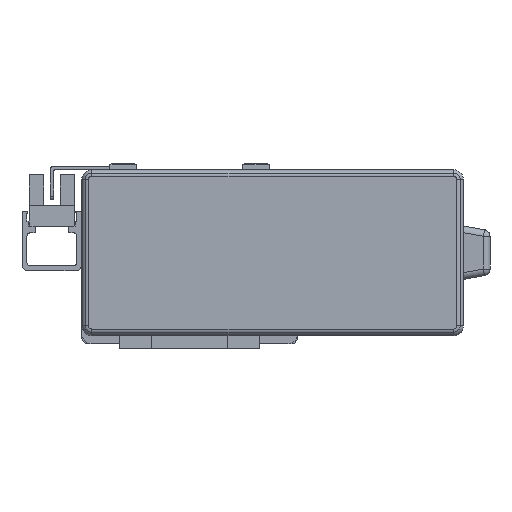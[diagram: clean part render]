
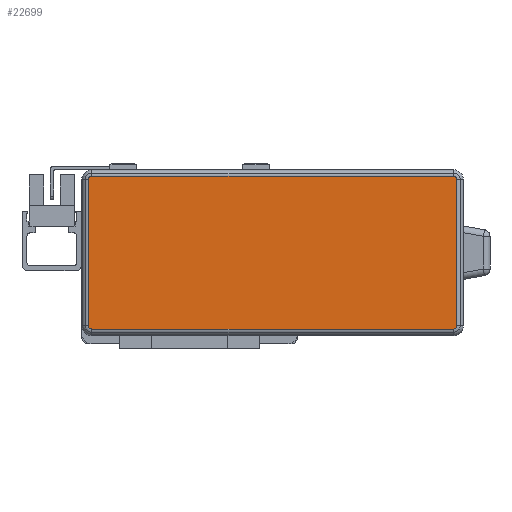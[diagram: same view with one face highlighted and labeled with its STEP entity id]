
A CAD part, left-side view. The second image highlights one B-rep face of the part: STEP entity #22699.
In plain terms, the highlighted planar face has unit normal (-1, 0, 0) as drawn and (0, 0, 1) by its records, which use the part's own axes.
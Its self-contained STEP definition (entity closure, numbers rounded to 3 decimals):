
#216 = CARTESIAN_POINT ( 'NONE',  ( -54.5, -23., 40. ) ) ;
#963 = EDGE_CURVE ( 'NONE', #20817, #25775, #24685, .T. ) ;
#1122 = VERTEX_POINT ( 'NONE', #13401 ) ;
#1203 = CARTESIAN_POINT ( 'NONE',  ( -54.5, -22., 40. ) ) ;
#1794 = ORIENTED_EDGE ( 'NONE', *, *, #11202, .T. ) ;
#2114 = CARTESIAN_POINT ( 'NONE',  ( 54.5, 22., 40. ) ) ;
#3273 = EDGE_LOOP ( 'NONE', ( #14688, #5175, #6045, #1794, #25498, #6986, #12124, #19382 ) ) ;
#3327 = DIRECTION ( 'NONE',  ( -1., 0., 0. ) ) ;
#3719 = DIRECTION ( 'NONE',  ( 0., 0., 1. ) ) ;
#3933 = CARTESIAN_POINT ( 'NONE',  ( -55.5, 0., 40. ) ) ;
#3990 = CARTESIAN_POINT ( 'NONE',  ( 0., -23., 40. ) ) ;
#4119 = EDGE_CURVE ( 'NONE', #7194, #9612, #12635, .T. ) ;
#4233 = DIRECTION ( 'NONE',  ( -1., 0., 0. ) ) ;
#5175 = ORIENTED_EDGE ( 'NONE', *, *, #21645, .T. ) ;
#5758 = CARTESIAN_POINT ( 'NONE',  ( -55.5, -22., 40. ) ) ;
#5947 = CARTESIAN_POINT ( 'NONE',  ( 54.5, 23., 40. ) ) ;
#6045 = ORIENTED_EDGE ( 'NONE', *, *, #21410, .T. ) ;
#6093 = CARTESIAN_POINT ( 'NONE',  ( -54.5, 23., 40. ) ) ;
#6654 = CARTESIAN_POINT ( 'NONE',  ( 54.5, -22., 40. ) ) ;
#6986 = ORIENTED_EDGE ( 'NONE', *, *, #18103, .T. ) ;
#7042 = DIRECTION ( 'NONE',  ( 0., 0., -1. ) ) ;
#7194 = VERTEX_POINT ( 'NONE', #216 ) ;
#7608 = VECTOR ( 'NONE', #18317, 1000. ) ;
#7701 = AXIS2_PLACEMENT_3D ( 'NONE', #6654, #21373, #8780 ) ;
#8780 = DIRECTION ( 'NONE',  ( -1., 0., 0. ) ) ;
#9378 = EDGE_CURVE ( 'NONE', #11027, #12312, #25231, .T. ) ;
#9612 = VERTEX_POINT ( 'NONE', #21420 ) ;
#10578 = CIRCLE ( 'NONE', #11719, 1. ) ;
#10673 = VERTEX_POINT ( 'NONE', #22924 ) ;
#10711 = CIRCLE ( 'NONE', #22965, 1. ) ;
#10831 = DIRECTION ( 'NONE',  ( -1., 0., 0. ) ) ;
#11027 = VERTEX_POINT ( 'NONE', #19966 ) ;
#11202 = EDGE_CURVE ( 'NONE', #10673, #20817, #10578, .T. ) ;
#11480 = FACE_OUTER_BOUND ( 'NONE', #3273, .T. ) ;
#11719 = AXIS2_PLACEMENT_3D ( 'NONE', #2114, #16839, #4233 ) ;
#12124 = ORIENTED_EDGE ( 'NONE', *, *, #9378, .T. ) ;
#12312 = VERTEX_POINT ( 'NONE', #5758 ) ;
#12635 = LINE ( 'NONE', #3990, #23145 ) ;
#12852 = CIRCLE ( 'NONE', #26574, 1. ) ;
#13401 = CARTESIAN_POINT ( 'NONE',  ( 55.5, -22., 40. ) ) ;
#13847 = LINE ( 'NONE', #20455, #7608 ) ;
#14688 = ORIENTED_EDGE ( 'NONE', *, *, #4119, .T. ) ;
#15938 = DIRECTION ( 'NONE',  ( 0., 0., 1. ) ) ;
#16332 = CARTESIAN_POINT ( 'NONE',  ( -54.5, 22., 40. ) ) ;
#16547 = DIRECTION ( 'NONE',  ( 0., -1., 0. ) ) ;
#16605 = DIRECTION ( 'NONE',  ( 1., 0., 0. ) ) ;
#16839 = DIRECTION ( 'NONE',  ( 0., 0., 1. ) ) ;
#18103 = EDGE_CURVE ( 'NONE', #25775, #11027, #10711, .T. ) ;
#18317 = DIRECTION ( 'NONE',  ( 0., 1., 0. ) ) ;
#18420 = CIRCLE ( 'NONE', #7701, 1. ) ;
#18431 = DIRECTION ( 'NONE',  ( -1., 0., 0. ) ) ;
#19382 = ORIENTED_EDGE ( 'NONE', *, *, #26854, .T. ) ;
#19432 = CARTESIAN_POINT ( 'NONE',  ( 0., 0., 40. ) ) ;
#19615 = PLANE ( 'NONE',  #25337 ) ;
#19966 = CARTESIAN_POINT ( 'NONE',  ( -55.5, 22., 40. ) ) ;
#20455 = CARTESIAN_POINT ( 'NONE',  ( 55.5, 0., 40. ) ) ;
#20817 = VERTEX_POINT ( 'NONE', #5947 ) ;
#21339 = CARTESIAN_POINT ( 'NONE',  ( 0., 23., 40. ) ) ;
#21373 = DIRECTION ( 'NONE',  ( 0., 0., 1. ) ) ;
#21410 = EDGE_CURVE ( 'NONE', #1122, #10673, #13847, .T. ) ;
#21420 = CARTESIAN_POINT ( 'NONE',  ( 54.5, -23., 40. ) ) ;
#21645 = EDGE_CURVE ( 'NONE', #9612, #1122, #18420, .T. ) ;
#21752 = DIRECTION ( 'NONE',  ( -1., 0., 0. ) ) ;
#22699 = ADVANCED_FACE ( 'NONE', ( #11480 ), #19615, .F. ) ;
#22924 = CARTESIAN_POINT ( 'NONE',  ( 55.5, 22., 40. ) ) ;
#22965 = AXIS2_PLACEMENT_3D ( 'NONE', #16332, #3719, #18431 ) ;
#23145 = VECTOR ( 'NONE', #16605, 1000. ) ;
#24685 = LINE ( 'NONE', #21339, #25349 ) ;
#25231 = LINE ( 'NONE', #3933, #25885 ) ;
#25337 = AXIS2_PLACEMENT_3D ( 'NONE', #19432, #7042, #21752 ) ;
#25349 = VECTOR ( 'NONE', #10831, 1000. ) ;
#25498 = ORIENTED_EDGE ( 'NONE', *, *, #963, .T. ) ;
#25775 = VERTEX_POINT ( 'NONE', #6093 ) ;
#25885 = VECTOR ( 'NONE', #16547, 1000. ) ;
#26574 = AXIS2_PLACEMENT_3D ( 'NONE', #1203, #15938, #3327 ) ;
#26854 = EDGE_CURVE ( 'NONE', #12312, #7194, #12852, .T. ) ;
